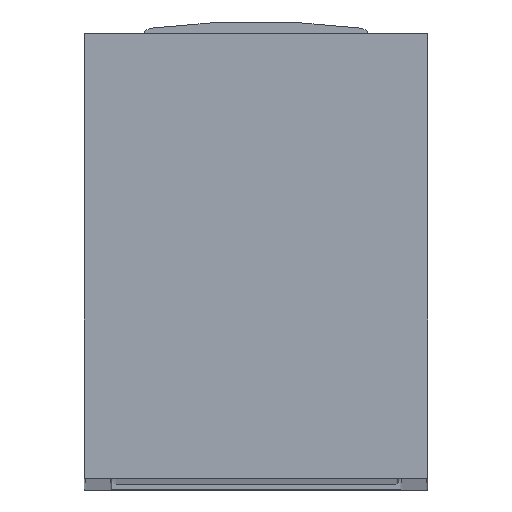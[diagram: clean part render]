
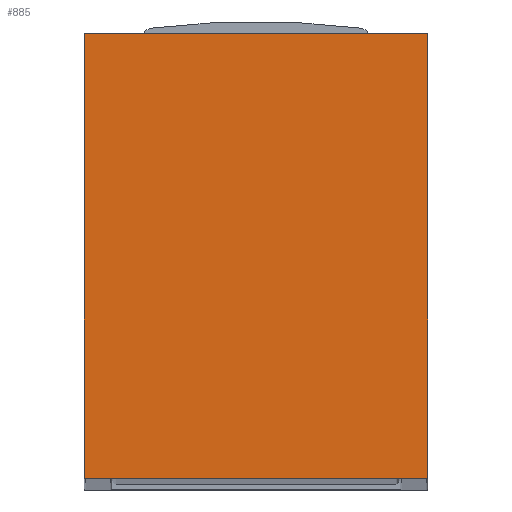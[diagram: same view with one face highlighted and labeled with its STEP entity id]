
A CAD part, top view. The second image highlights one B-rep face of the part: STEP entity #885.
In plain terms, the highlighted planar face has unit normal (0, 0, 1).
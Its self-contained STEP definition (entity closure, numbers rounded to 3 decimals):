
#47 = LINE ( 'NONE', #245, #1676 ) ;
#206 = DIRECTION ( 'NONE',  ( -1., 0., 0. ) ) ;
#245 = CARTESIAN_POINT ( 'NONE',  ( 29., 0., 567. ) ) ;
#271 = EDGE_CURVE ( 'NONE', #297, #1889, #660, .T. ) ;
#297 = VERTEX_POINT ( 'NONE', #481 ) ;
#298 = ORIENTED_EDGE ( 'NONE', *, *, #1115, .T. ) ;
#445 = CARTESIAN_POINT ( 'NONE',  ( 0., 0., 567. ) ) ;
#466 = CARTESIAN_POINT ( 'NONE',  ( -29., 75., 567. ) ) ;
#481 = CARTESIAN_POINT ( 'NONE',  ( -29., 0., 567. ) ) ;
#515 = FACE_OUTER_BOUND ( 'NONE', #1206, .T. ) ;
#533 = CARTESIAN_POINT ( 'NONE',  ( 29., 0., 567. ) ) ;
#645 = ORIENTED_EDGE ( 'NONE', *, *, #900, .T. ) ;
#660 = LINE ( 'NONE', #1019, #1199 ) ;
#698 = DIRECTION ( 'NONE',  ( 0., -1., 0. ) ) ;
#724 = EDGE_CURVE ( 'NONE', #2067, #297, #1565, .T. ) ;
#814 = VECTOR ( 'NONE', #206, 1000. ) ;
#823 = PLANE ( 'NONE',  #1338 ) ;
#846 = VERTEX_POINT ( 'NONE', #1014 ) ;
#885 = ADVANCED_FACE ( 'NONE', ( #515 ), #823, .F. ) ;
#900 = EDGE_CURVE ( 'NONE', #1889, #846, #47, .T. ) ;
#1014 = CARTESIAN_POINT ( 'NONE',  ( 29., 75., 567. ) ) ;
#1019 = CARTESIAN_POINT ( 'NONE',  ( -29., 0., 567. ) ) ;
#1079 = CARTESIAN_POINT ( 'NONE',  ( -29., 0., 567. ) ) ;
#1115 = EDGE_CURVE ( 'NONE', #846, #2067, #1569, .T. ) ;
#1199 = VECTOR ( 'NONE', #1404, 1000. ) ;
#1206 = EDGE_LOOP ( 'NONE', ( #2076, #1664, #645, #298 ) ) ;
#1338 = AXIS2_PLACEMENT_3D ( 'NONE', #445, #1913, #1539 ) ;
#1404 = DIRECTION ( 'NONE',  ( 1., 0., 0. ) ) ;
#1510 = CARTESIAN_POINT ( 'NONE',  ( -29., 75., 567. ) ) ;
#1539 = DIRECTION ( 'NONE',  ( -1., 0., 0. ) ) ;
#1565 = LINE ( 'NONE', #1079, #2166 ) ;
#1569 = LINE ( 'NONE', #1510, #814 ) ;
#1664 = ORIENTED_EDGE ( 'NONE', *, *, #271, .T. ) ;
#1676 = VECTOR ( 'NONE', #2095, 1000. ) ;
#1889 = VERTEX_POINT ( 'NONE', #533 ) ;
#1913 = DIRECTION ( 'NONE',  ( 0., 0., -1. ) ) ;
#2067 = VERTEX_POINT ( 'NONE', #466 ) ;
#2076 = ORIENTED_EDGE ( 'NONE', *, *, #724, .T. ) ;
#2095 = DIRECTION ( 'NONE',  ( 0., 1., 0. ) ) ;
#2166 = VECTOR ( 'NONE', #698, 1000. ) ;
